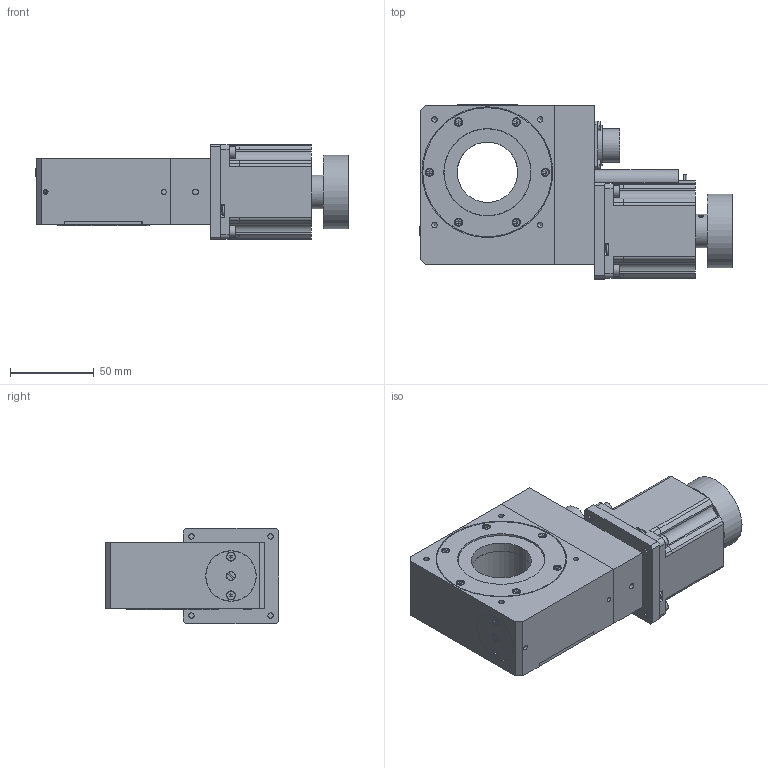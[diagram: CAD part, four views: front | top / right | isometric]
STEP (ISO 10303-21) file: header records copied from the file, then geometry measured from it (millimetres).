
FILE_DESCRIPTION((''),'2;1');
FILE_NAME('C:\Axmo\Axmo autodesk\Designs\Standard\1194 rmf\1194 01\RMF80.stp','2011-09-13T16:23:46',('AXMOBE'),(''),'Autodesk Inventor 2011','Autodesk Inventor 2011','');
FILE_SCHEMA(('AUTOMOTIVE_DESIGN { 1 2 10303 214 0 1 1 1 }'));
Length unit declared in the file: millimetre
Products named in the file (1): 1194 01 ENS 000_Enveloppe_1
Bounding box: 186.3 x 103.7 x 57.2 mm (x, y, z)
Volume: 507874.7 mm3; surface area: 123635.3 mm2
Topology: 1 solids, 56 shells, 1562 faces, 3733 edges, 2409 vertices
Faces by surface type: plane 737, cylinder 391, cone 259, bspline 80, torus 79, sphere 16
Full cylindrical faces by diameter (mm): 1 x6, 1.2 x2, 2.013 x15, 2.1 x2, 2.459 x20, 2.5 x11, 2.693 x4, 2.8 x1, 3 x27, 3.242 x17, 3.5 x12, 4 x7, 4.5 x6, 5 x16, 5.5 x10, 6 x8, 6.35 x2, 6.4 x1, 6.459 x2, 6.5 x3, 6.7 x1, 7 x10, 8 x1, 10 x3, 10.84 x4, 11 x1, 15 x1, 15.16 x4, 18 x4, 18.8 x1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
Entity records: 48388 total; most frequent: CARTESIAN_POINT 14818, DIRECTION 6243, ORIENTED_EDGE 6174, EDGE_CURVE 3087, AXIS2_PLACEMENT_3D 2512, EDGE_LOOP 2221, VERTEX_POINT 2172, FACE_OUTER_BOUND 1556
